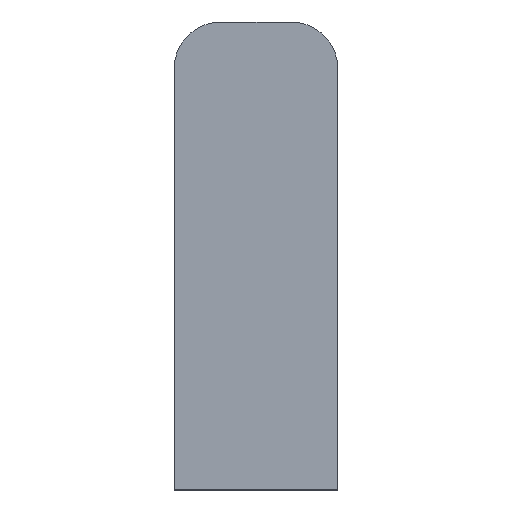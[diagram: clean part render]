
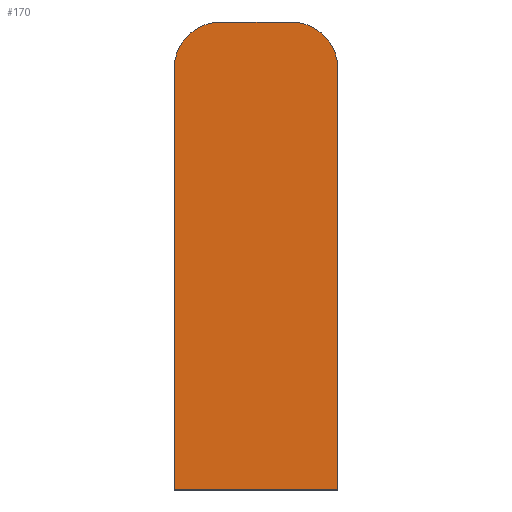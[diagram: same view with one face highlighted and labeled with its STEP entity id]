
A CAD part, front view. The second image highlights one B-rep face of the part: STEP entity #170.
In plain terms, the highlighted planar face has unit normal (0, -1, 0).
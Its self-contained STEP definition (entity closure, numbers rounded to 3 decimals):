
#9 = ORIENTED_EDGE ( 'NONE', *, *, #177, .T. ) ;
#10 = ORIENTED_EDGE ( 'NONE', *, *, #217, .T. ) ;
#35 = ORIENTED_EDGE ( 'NONE', *, *, #189, .T. ) ;
#57 = EDGE_LOOP ( 'NONE', ( #109, #85, #84, #9, #10, #35 ) ) ;
#84 = ORIENTED_EDGE ( 'NONE', *, *, #220, .T. ) ;
#85 = ORIENTED_EDGE ( 'NONE', *, *, #228, .T. ) ;
#88 = LINE ( 'NONE', #349, #89 ) ;
#89 = VECTOR ( 'NONE', #350, 1000. ) ;
#90 = VECTOR ( 'NONE', #346, 1000. ) ;
#109 = ORIENTED_EDGE ( 'NONE', *, *, #179, .T. ) ;
#114 = LINE ( 'NONE', #325, #125 ) ;
#125 = VECTOR ( 'NONE', #328, 1000. ) ;
#127 = CIRCLE ( 'NONE', #186, 3. ) ;
#131 = CIRCLE ( 'NONE', #192, 3. ) ;
#136 = LINE ( 'NONE', #289, #143 ) ;
#139 = FACE_OUTER_BOUND ( 'NONE', #57, .T. ) ;
#143 = VECTOR ( 'NONE', #303, 1000. ) ;
#158 = LINE ( 'NONE', #345, #90 ) ;
#170 = ADVANCED_FACE ( 'NONE', ( #139 ), #294, .F. ) ;
#171 = AXIS2_PLACEMENT_3D ( 'NONE', #293, #295, #296 ) ;
#177 = EDGE_CURVE ( 'NONE', #321, #249, #131, .T. ) ;
#179 = EDGE_CURVE ( 'NONE', #240, #255, #136, .T. ) ;
#186 = AXIS2_PLACEMENT_3D ( 'NONE', #360, #369, #370 ) ;
#189 = EDGE_CURVE ( 'NONE', #250, #240, #114, .T. ) ;
#192 = AXIS2_PLACEMENT_3D ( 'NONE', #297, #300, #301 ) ;
#217 = EDGE_CURVE ( 'NONE', #249, #250, #158, .T. ) ;
#220 = EDGE_CURVE ( 'NONE', #242, #321, #88, .T. ) ;
#228 = EDGE_CURVE ( 'NONE', #255, #242, #127, .T. ) ;
#240 = VERTEX_POINT ( 'NONE', #378 ) ;
#242 = VERTEX_POINT ( 'NONE', #364 ) ;
#249 = VERTEX_POINT ( 'NONE', #385 ) ;
#250 = VERTEX_POINT ( 'NONE', #386 ) ;
#255 = VERTEX_POINT ( 'NONE', #391 ) ;
#289 = CARTESIAN_POINT ( 'NONE',  ( 5.25, 0., -16.5 ) ) ;
#293 = CARTESIAN_POINT ( 'NONE',  ( 0., 0., -1.5 ) ) ;
#294 = PLANE ( 'NONE',  #171 ) ;
#295 = DIRECTION ( 'NONE',  ( 0., 1., 0. ) ) ;
#296 = DIRECTION ( 'NONE',  ( -1., 0., 0. ) ) ;
#297 = CARTESIAN_POINT ( 'NONE',  ( -2.25, 0., 10.5 ) ) ;
#300 = DIRECTION ( 'NONE',  ( 0., -1., 0. ) ) ;
#301 = DIRECTION ( 'NONE',  ( -1., 0., 0. ) ) ;
#303 = DIRECTION ( 'NONE',  ( 0., 0., 1. ) ) ;
#321 = VERTEX_POINT ( 'NONE', #392 ) ;
#325 = CARTESIAN_POINT ( 'NONE',  ( 5.25, 0., -16.5 ) ) ;
#328 = DIRECTION ( 'NONE',  ( 1., 0., 0. ) ) ;
#345 = CARTESIAN_POINT ( 'NONE',  ( -5.25, 0., -16.5 ) ) ;
#346 = DIRECTION ( 'NONE',  ( 0., 0., -1. ) ) ;
#349 = CARTESIAN_POINT ( 'NONE',  ( 2.25, 0., 13.5 ) ) ;
#350 = DIRECTION ( 'NONE',  ( -1., 0., 0. ) ) ;
#360 = CARTESIAN_POINT ( 'NONE',  ( 2.25, 0., 10.5 ) ) ;
#364 = CARTESIAN_POINT ( 'NONE',  ( 2.25, 0., 13.5 ) ) ;
#369 = DIRECTION ( 'NONE',  ( 0., -1., 0. ) ) ;
#370 = DIRECTION ( 'NONE',  ( -1., 0., 0. ) ) ;
#378 = CARTESIAN_POINT ( 'NONE',  ( 5.25, 0., -16.5 ) ) ;
#385 = CARTESIAN_POINT ( 'NONE',  ( -5.25, 0., 10.5 ) ) ;
#386 = CARTESIAN_POINT ( 'NONE',  ( -5.25, 0., -16.5 ) ) ;
#391 = CARTESIAN_POINT ( 'NONE',  ( 5.25, 0., 10.5 ) ) ;
#392 = CARTESIAN_POINT ( 'NONE',  ( -2.25, 0., 13.5 ) ) ;
